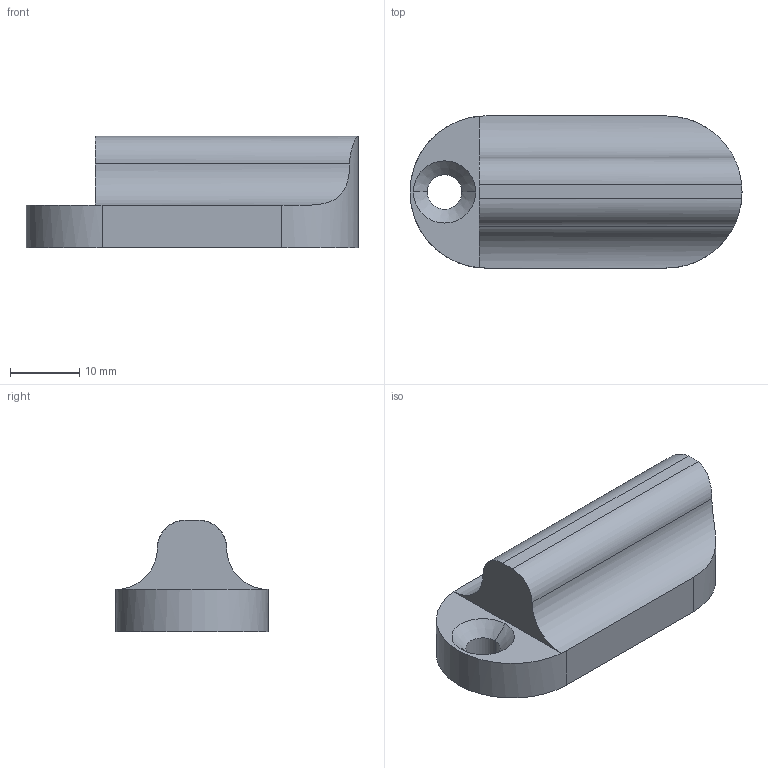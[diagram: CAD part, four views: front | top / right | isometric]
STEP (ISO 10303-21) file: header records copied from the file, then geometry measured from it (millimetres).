
FILE_DESCRIPTION(('CATIA V5 STEP Exchange'),'2;1');
FILE_NAME('C:\users\andol\Mes documents\Lien vers ANDOL_8GO\PROJETS\3D_LIB\ETUI_VAPOTEUR\etui_vapoteur_V4\ETUI_VAPOTEUR_V4_UP.stp','2012-05-12T22:24:28+00:00',('none'),('none'),'CATIA Version 5 Release 19 SP 2 (IN-10)','CATIA V5 STEP AP203','none');
FILE_SCHEMA(('CONFIG_CONTROL_DESIGN'));
Length unit declared in the file: millimetre
Products named in the file (1): etui_vapoteur_V4_UP
Bounding box: 48 x 22 x 16.1 mm (x, y, z)
Volume: 9707.2 mm3; surface area: 3329.9 mm2
Topology: 1 solids, 1 shells, 18 faces, 48 edges, 31 vertices
Faces by surface type: cylinder 8, plane 6, cone 4
Entity records: 611 total; most frequent: CARTESIAN_POINT 139, ORIENTED_EDGE 92, DIRECTION 74, EDGE_CURVE 46, AXIS2_PLACEMENT_3D 38, VERTEX_POINT 31, EDGE_LOOP 21, VECTOR 20
